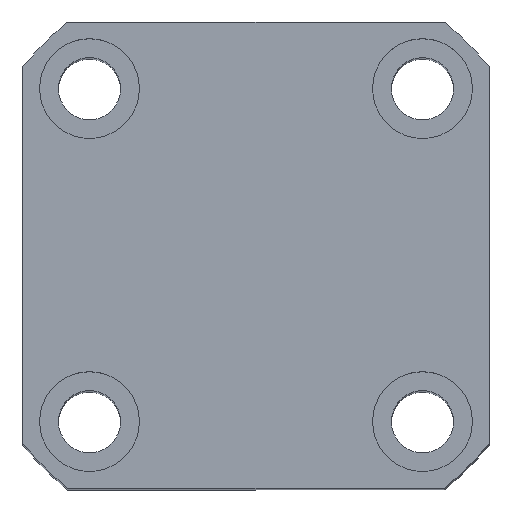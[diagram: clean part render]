
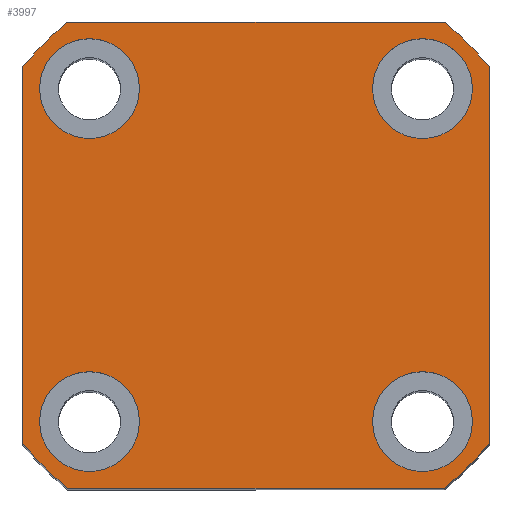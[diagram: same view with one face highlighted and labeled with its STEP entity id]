
A CAD part, top view. The second image highlights one B-rep face of the part: STEP entity #3997.
In plain terms, the highlighted planar face has unit normal (0, 0, 1).
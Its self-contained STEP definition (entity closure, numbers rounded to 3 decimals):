
#21 = ORIENTED_EDGE ( 'NONE', *, *, #5418, .F. ) ;
#60 = CARTESIAN_POINT ( 'NONE',  ( 15., -14.998, 93. ) ) ;
#77 = EDGE_CURVE ( 'NONE', #9120, #6490, #9694, .T. ) ;
#93 = EDGE_LOOP ( 'NONE', ( #4923, #4552 ) ) ;
#228 = DIRECTION ( 'NONE',  ( 1., 0., 0. ) ) ;
#233 = AXIS2_PLACEMENT_3D ( 'NONE', #7819, #2896, #8622 ) ;
#310 = ORIENTED_EDGE ( 'NONE', *, *, #4795, .T. ) ;
#345 = CARTESIAN_POINT ( 'NONE',  ( 10.5, -14.998, 93. ) ) ;
#429 = CARTESIAN_POINT ( 'NONE',  ( -21., 21., 93. ) ) ;
#668 = EDGE_CURVE ( 'NONE', #1729, #5416, #9836, .T. ) ;
#687 = PLANE ( 'NONE',  #4670 ) ;
#688 = ORIENTED_EDGE ( 'NONE', *, *, #6841, .T. ) ;
#818 = EDGE_LOOP ( 'NONE', ( #4792, #8505 ) ) ;
#871 = DIRECTION ( 'NONE',  ( 1., 0., 0. ) ) ;
#916 = VERTEX_POINT ( 'NONE', #3414 ) ;
#951 = CARTESIAN_POINT ( 'NONE',  ( -21., 16.971, 93. ) ) ;
#960 = AXIS2_PLACEMENT_3D ( 'NONE', #10043, #5132, #228 ) ;
#1153 = CIRCLE ( 'NONE', #3718, 27. ) ;
#1245 = DIRECTION ( 'NONE',  ( -1., 0., 0. ) ) ;
#1441 = ORIENTED_EDGE ( 'NONE', *, *, #77, .T. ) ;
#1517 = CIRCLE ( 'NONE', #9020, 4.5 ) ;
#1563 = ORIENTED_EDGE ( 'NONE', *, *, #5087, .T. ) ;
#1729 = VERTEX_POINT ( 'NONE', #6940 ) ;
#1787 = CIRCLE ( 'NONE', #7980, 4.5 ) ;
#1960 = ORIENTED_EDGE ( 'NONE', *, *, #7907, .T. ) ;
#2055 = FACE_OUTER_BOUND ( 'NONE', #6099, .T. ) ;
#2189 = DIRECTION ( 'NONE',  ( 0., 0., 1. ) ) ;
#2210 = EDGE_LOOP ( 'NONE', ( #3441, #7752 ) ) ;
#2386 = EDGE_CURVE ( 'NONE', #7302, #3606, #9530, .T. ) ;
#2401 = CARTESIAN_POINT ( 'NONE',  ( 21., 21., 93. ) ) ;
#2583 = DIRECTION ( 'NONE',  ( 0., 0., 1. ) ) ;
#2738 = EDGE_CURVE ( 'NONE', #916, #4721, #8246, .T. ) ;
#2794 = DIRECTION ( 'NONE',  ( 0., 0., 1. ) ) ;
#2810 = VECTOR ( 'NONE', #8392, 1000. ) ;
#2886 = DIRECTION ( 'NONE',  ( 0., 0., 1. ) ) ;
#2896 = DIRECTION ( 'NONE',  ( 0., 0., 1. ) ) ;
#3015 = CARTESIAN_POINT ( 'NONE',  ( -16.971, 21., 93. ) ) ;
#3088 = CARTESIAN_POINT ( 'NONE',  ( 0., 0., 93. ) ) ;
#3148 = DIRECTION ( 'NONE',  ( 1., 0., 0. ) ) ;
#3263 = CARTESIAN_POINT ( 'NONE',  ( 21., 16.971, 93. ) ) ;
#3414 = CARTESIAN_POINT ( 'NONE',  ( 16.971, 21., 93. ) ) ;
#3441 = ORIENTED_EDGE ( 'NONE', *, *, #668, .F. ) ;
#3592 = VERTEX_POINT ( 'NONE', #7439 ) ;
#3606 = VERTEX_POINT ( 'NONE', #6617 ) ;
#3718 = AXIS2_PLACEMENT_3D ( 'NONE', #3088, #8821, #3912 ) ;
#3722 = VERTEX_POINT ( 'NONE', #5328 ) ;
#3727 = CARTESIAN_POINT ( 'NONE',  ( 15., -14.998, 93. ) ) ;
#3734 = ORIENTED_EDGE ( 'NONE', *, *, #4740, .T. ) ;
#3912 = DIRECTION ( 'NONE',  ( 1., 0., 0. ) ) ;
#3985 = ORIENTED_EDGE ( 'NONE', *, *, #2738, .T. ) ;
#3997 = ADVANCED_FACE ( 'NONE', ( #8578, #4232, #7172, #6415, #2055 ), #687, .T. ) ;
#4232 = FACE_BOUND ( 'NONE', #93, .T. ) ;
#4282 = CARTESIAN_POINT ( 'NONE',  ( -21., -21., 93. ) ) ;
#4444 = CARTESIAN_POINT ( 'NONE',  ( 16.971, -21., 93. ) ) ;
#4497 = DIRECTION ( 'NONE',  ( 0., 0., 1. ) ) ;
#4526 = DIRECTION ( 'NONE',  ( 0., 0., 1. ) ) ;
#4527 = DIRECTION ( 'NONE',  ( 1., 0., 0. ) ) ;
#4552 = ORIENTED_EDGE ( 'NONE', *, *, #2386, .F. ) ;
#4670 = AXIS2_PLACEMENT_3D ( 'NONE', #4769, #8058, #3148 ) ;
#4721 = VERTEX_POINT ( 'NONE', #3015 ) ;
#4740 = EDGE_CURVE ( 'NONE', #6683, #916, #1153, .T. ) ;
#4769 = CARTESIAN_POINT ( 'NONE',  ( 0., 0., 93. ) ) ;
#4792 = ORIENTED_EDGE ( 'NONE', *, *, #8205, .F. ) ;
#4795 = EDGE_CURVE ( 'NONE', #6052, #10443, #9599, .T. ) ;
#4828 = CARTESIAN_POINT ( 'NONE',  ( 0., 0., 93. ) ) ;
#4923 = ORIENTED_EDGE ( 'NONE', *, *, #10223, .F. ) ;
#5019 = DIRECTION ( 'NONE',  ( 0., 0., 1. ) ) ;
#5087 = EDGE_CURVE ( 'NONE', #10443, #6683, #9211, .T. ) ;
#5132 = DIRECTION ( 'NONE',  ( 0., 0., 1. ) ) ;
#5203 = CIRCLE ( 'NONE', #7074, 4.5 ) ;
#5328 = CARTESIAN_POINT ( 'NONE',  ( 19.5, 15., 93. ) ) ;
#5371 = AXIS2_PLACEMENT_3D ( 'NONE', #7503, #2583, #8313 ) ;
#5390 = CARTESIAN_POINT ( 'NONE',  ( 10.5, 15., 93. ) ) ;
#5416 = VERTEX_POINT ( 'NONE', #345 ) ;
#5418 = EDGE_CURVE ( 'NONE', #3722, #5571, #6028, .T. ) ;
#5553 = AXIS2_PLACEMENT_3D ( 'NONE', #3727, #4497, #4527 ) ;
#5571 = VERTEX_POINT ( 'NONE', #5390 ) ;
#5628 = CIRCLE ( 'NONE', #5371, 4.5 ) ;
#5661 = DIRECTION ( 'NONE',  ( 1., 0., 0. ) ) ;
#5803 = DIRECTION ( 'NONE',  ( 0., 0., 1. ) ) ;
#5882 = CARTESIAN_POINT ( 'NONE',  ( -19.5, 15.002, 93. ) ) ;
#5954 = AXIS2_PLACEMENT_3D ( 'NONE', #4828, #10561, #5661 ) ;
#6028 = CIRCLE ( 'NONE', #6621, 4.5 ) ;
#6052 = VERTEX_POINT ( 'NONE', #4444 ) ;
#6099 = EDGE_LOOP ( 'NONE', ( #1563, #3734, #3985, #6196, #1960, #1441, #688, #310 ) ) ;
#6177 = CARTESIAN_POINT ( 'NONE',  ( -21., -16.971, 93. ) ) ;
#6196 = ORIENTED_EDGE ( 'NONE', *, *, #8384, .T. ) ;
#6415 = FACE_BOUND ( 'NONE', #6450, .T. ) ;
#6450 = EDGE_LOOP ( 'NONE', ( #21, #8475 ) ) ;
#6490 = VERTEX_POINT ( 'NONE', #7442 ) ;
#6617 = CARTESIAN_POINT ( 'NONE',  ( -10.5, -14.998, 93. ) ) ;
#6621 = AXIS2_PLACEMENT_3D ( 'NONE', #7725, #2794, #8530 ) ;
#6683 = VERTEX_POINT ( 'NONE', #3263 ) ;
#6757 = AXIS2_PLACEMENT_3D ( 'NONE', #7096, #2189, #7923 ) ;
#6785 = CIRCLE ( 'NONE', #233, 27. ) ;
#6841 = EDGE_CURVE ( 'NONE', #6490, #6052, #6925, .T. ) ;
#6914 = LINE ( 'NONE', #7920, #8806 ) ;
#6925 = LINE ( 'NONE', #4282, #2810 ) ;
#6940 = CARTESIAN_POINT ( 'NONE',  ( 19.5, -14.998, 93. ) ) ;
#7034 = EDGE_CURVE ( 'NONE', #5571, #3722, #1787, .T. ) ;
#7036 = VECTOR ( 'NONE', #8100, 1000. ) ;
#7074 = AXIS2_PLACEMENT_3D ( 'NONE', #7805, #2886, #8611 ) ;
#7093 = DIRECTION ( 'NONE',  ( 0., -1., 0. ) ) ;
#7096 = CARTESIAN_POINT ( 'NONE',  ( -15., 15.002, 93. ) ) ;
#7172 = FACE_BOUND ( 'NONE', #2210, .T. ) ;
#7302 = VERTEX_POINT ( 'NONE', #9950 ) ;
#7330 = DIRECTION ( 'NONE',  ( 1., 0., 0. ) ) ;
#7439 = CARTESIAN_POINT ( 'NONE',  ( -10.5, 15.002, 93. ) ) ;
#7442 = CARTESIAN_POINT ( 'NONE',  ( -16.971, -21., 93. ) ) ;
#7503 = CARTESIAN_POINT ( 'NONE',  ( -15., 15.002, 93. ) ) ;
#7725 = CARTESIAN_POINT ( 'NONE',  ( 15., 15., 93. ) ) ;
#7752 = ORIENTED_EDGE ( 'NONE', *, *, #8113, .F. ) ;
#7805 = CARTESIAN_POINT ( 'NONE',  ( -15., -14.998, 93. ) ) ;
#7819 = CARTESIAN_POINT ( 'NONE',  ( 0., 0., 93. ) ) ;
#7907 = EDGE_CURVE ( 'NONE', #9616, #9120, #6914, .T. ) ;
#7920 = CARTESIAN_POINT ( 'NONE',  ( -21., 21., 93. ) ) ;
#7923 = DIRECTION ( 'NONE',  ( 1., 0., 0. ) ) ;
#7980 = AXIS2_PLACEMENT_3D ( 'NONE', #9432, #4526, #10268 ) ;
#8058 = DIRECTION ( 'NONE',  ( 0., 0., 1. ) ) ;
#8100 = DIRECTION ( 'NONE',  ( 0., 1., 0. ) ) ;
#8113 = EDGE_CURVE ( 'NONE', #5416, #1729, #1517, .T. ) ;
#8205 = EDGE_CURVE ( 'NONE', #3592, #9624, #5628, .T. ) ;
#8246 = LINE ( 'NONE', #429, #8514 ) ;
#8313 = DIRECTION ( 'NONE',  ( 1., 0., 0. ) ) ;
#8384 = EDGE_CURVE ( 'NONE', #4721, #9616, #6785, .T. ) ;
#8392 = DIRECTION ( 'NONE',  ( 1., 0., 0. ) ) ;
#8475 = ORIENTED_EDGE ( 'NONE', *, *, #7034, .F. ) ;
#8505 = ORIENTED_EDGE ( 'NONE', *, *, #9923, .F. ) ;
#8514 = VECTOR ( 'NONE', #1245, 1000. ) ;
#8530 = DIRECTION ( 'NONE',  ( 1., 0., 0. ) ) ;
#8578 = FACE_BOUND ( 'NONE', #818, .T. ) ;
#8611 = DIRECTION ( 'NONE',  ( 1., 0., 0. ) ) ;
#8622 = DIRECTION ( 'NONE',  ( 1., 0., 0. ) ) ;
#8737 = CARTESIAN_POINT ( 'NONE',  ( 21., -16.971, 93. ) ) ;
#8806 = VECTOR ( 'NONE', #7093, 1000. ) ;
#8821 = DIRECTION ( 'NONE',  ( 0., 0., 1. ) ) ;
#9020 = AXIS2_PLACEMENT_3D ( 'NONE', #60, #5803, #871 ) ;
#9120 = VERTEX_POINT ( 'NONE', #6177 ) ;
#9211 = LINE ( 'NONE', #2401, #7036 ) ;
#9253 = AXIS2_PLACEMENT_3D ( 'NONE', #10560, #5019, #7330 ) ;
#9432 = CARTESIAN_POINT ( 'NONE',  ( 15., 15., 93. ) ) ;
#9530 = CIRCLE ( 'NONE', #960, 4.5 ) ;
#9599 = CIRCLE ( 'NONE', #5954, 27. ) ;
#9616 = VERTEX_POINT ( 'NONE', #951 ) ;
#9624 = VERTEX_POINT ( 'NONE', #5882 ) ;
#9694 = CIRCLE ( 'NONE', #9253, 27. ) ;
#9836 = CIRCLE ( 'NONE', #5553, 4.5 ) ;
#9847 = CIRCLE ( 'NONE', #6757, 4.5 ) ;
#9923 = EDGE_CURVE ( 'NONE', #9624, #3592, #9847, .T. ) ;
#9950 = CARTESIAN_POINT ( 'NONE',  ( -19.5, -14.998, 93. ) ) ;
#10043 = CARTESIAN_POINT ( 'NONE',  ( -15., -14.998, 93. ) ) ;
#10223 = EDGE_CURVE ( 'NONE', #3606, #7302, #5203, .T. ) ;
#10268 = DIRECTION ( 'NONE',  ( 1., 0., 0. ) ) ;
#10443 = VERTEX_POINT ( 'NONE', #8737 ) ;
#10560 = CARTESIAN_POINT ( 'NONE',  ( 0., 0., 93. ) ) ;
#10561 = DIRECTION ( 'NONE',  ( 0., 0., 1. ) ) ;
